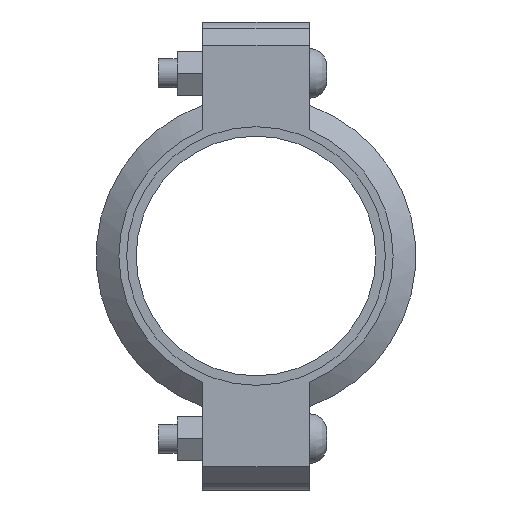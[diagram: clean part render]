
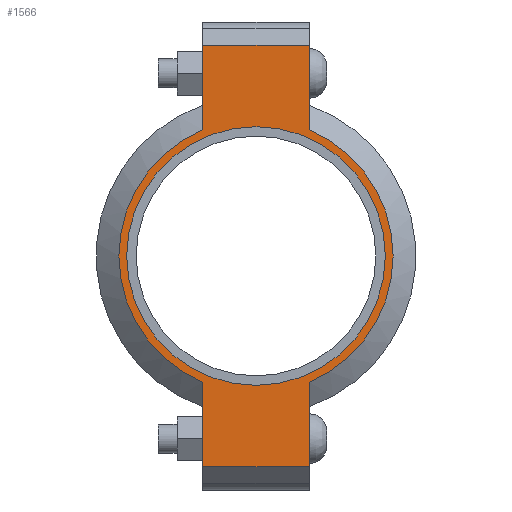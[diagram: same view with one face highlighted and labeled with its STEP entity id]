
A CAD part, left-side view. The second image highlights one B-rep face of the part: STEP entity #1566.
In plain terms, the highlighted planar face has unit normal (-1, 0, 0) as drawn and (0, 0, 1) by its records, which use the part's own axes.
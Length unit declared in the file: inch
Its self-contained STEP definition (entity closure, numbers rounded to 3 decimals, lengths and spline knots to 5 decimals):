
#190=LINE('',#2742,#283);
#198=LINE('',#2778,#291);
#205=LINE('',#2799,#298);
#214=LINE('',#2831,#307);
#215=LINE('',#2835,#308);
#216=LINE('',#2837,#309);
#283=VECTOR('',#2234,0.3937);
#291=VECTOR('',#2250,0.3937);
#298=VECTOR('',#2269,0.3937);
#307=VECTOR('',#2294,0.3937);
#308=VECTOR('',#2299,0.3937);
#309=VECTOR('',#2300,0.3937);
#365=FACE_BOUND('',#543,.T.);
#437=FACE_OUTER_BOUND('',#542,.T.);
#542=EDGE_LOOP('',(#1307,#1308,#1309,#1310,#1311,#1312,#1313,#1314));
#543=EDGE_LOOP('',(#1315));
#615=CIRCLE('',#1794,2.7815);
#641=CIRCLE('',#1853,2.95);
#642=CIRCLE('',#1854,2.95);
#707=VERTEX_POINT('',#2558);
#750=VERTEX_POINT('',#2739);
#751=VERTEX_POINT('',#2741);
#762=VERTEX_POINT('',#2773);
#763=VERTEX_POINT('',#2777);
#770=VERTEX_POINT('',#2796);
#771=VERTEX_POINT('',#2798);
#781=VERTEX_POINT('',#2834);
#782=VERTEX_POINT('',#2836);
#863=EDGE_CURVE('',#707,#707,#615,.T.);
#924=EDGE_CURVE('',#751,#750,#190,.T.);
#938=EDGE_CURVE('',#763,#762,#198,.T.);
#948=EDGE_CURVE('',#771,#770,#205,.T.);
#963=EDGE_CURVE('',#763,#750,#214,.T.);
#964=EDGE_CURVE('',#762,#771,#641,.T.);
#965=EDGE_CURVE('',#781,#770,#215,.T.);
#966=EDGE_CURVE('',#781,#782,#216,.T.);
#967=EDGE_CURVE('',#782,#751,#642,.T.);
#1307=ORIENTED_EDGE('',*,*,#963,.F.);
#1308=ORIENTED_EDGE('',*,*,#938,.T.);
#1309=ORIENTED_EDGE('',*,*,#964,.T.);
#1310=ORIENTED_EDGE('',*,*,#948,.T.);
#1311=ORIENTED_EDGE('',*,*,#965,.F.);
#1312=ORIENTED_EDGE('',*,*,#966,.T.);
#1313=ORIENTED_EDGE('',*,*,#967,.T.);
#1314=ORIENTED_EDGE('',*,*,#924,.T.);
#1315=ORIENTED_EDGE('',*,*,#863,.T.);
#1408=PLANE('',#1852);
#1566=ADVANCED_FACE('',(#437,#365),#1408,.T.);
#1794=AXIS2_PLACEMENT_3D('',#2560,#2110,#2111);
#1852=AXIS2_PLACEMENT_3D('',#2832,#2295,#2296);
#1853=AXIS2_PLACEMENT_3D('',#2833,#2297,#2298);
#1854=AXIS2_PLACEMENT_3D('',#2838,#2301,#2302);
#2110=DIRECTION('center_axis',(0.,0.,-1.));
#2111=DIRECTION('ref_axis',(1.,0.,0.));
#2234=DIRECTION('',(1.,0.,0.));
#2250=DIRECTION('',(-1.,0.,0.));
#2269=DIRECTION('',(-1.,0.,0.));
#2294=DIRECTION('',(0.,-1.,0.));
#2295=DIRECTION('center_axis',(0.,0.,1.));
#2296=DIRECTION('ref_axis',(-1.,0.,0.));
#2297=DIRECTION('center_axis',(0.,0.,1.));
#2298=DIRECTION('ref_axis',(1.,0.,0.));
#2299=DIRECTION('',(0.,1.,0.));
#2300=DIRECTION('',(1.,0.,0.));
#2301=DIRECTION('center_axis',(0.,0.,1.));
#2302=DIRECTION('ref_axis',(1.,0.,0.));
#2558=CARTESIAN_POINT('',(-2.7815,0.,1.065));
#2560=CARTESIAN_POINT('Origin',(0.,0.,1.065));
#2739=CARTESIAN_POINT('',(4.535,-1.15,1.065));
#2741=CARTESIAN_POINT('',(2.71662,-1.15,1.065));
#2742=CARTESIAN_POINT('',(5.035,-1.15,1.065));
#2773=CARTESIAN_POINT('',(2.71662,1.15,1.065));
#2777=CARTESIAN_POINT('',(4.535,1.15,1.065));
#2778=CARTESIAN_POINT('',(-5.035,1.15,1.065));
#2796=CARTESIAN_POINT('',(-4.535,1.15,1.065));
#2798=CARTESIAN_POINT('',(-2.71662,1.15,1.065));
#2799=CARTESIAN_POINT('',(-5.035,1.15,1.065));
#2831=CARTESIAN_POINT('',(4.535,-0.575,1.065));
#2832=CARTESIAN_POINT('Origin',(0.,0.,
1.065));
#2833=CARTESIAN_POINT('Origin',(0.,0.,1.065));
#2834=CARTESIAN_POINT('',(-4.535,-1.15,1.065));
#2835=CARTESIAN_POINT('',(-4.535,0.575,1.065));
#2836=CARTESIAN_POINT('',(-2.71662,-1.15,1.065));
#2837=CARTESIAN_POINT('',(5.035,-1.15,1.065));
#2838=CARTESIAN_POINT('Origin',(0.,0.,1.065));
